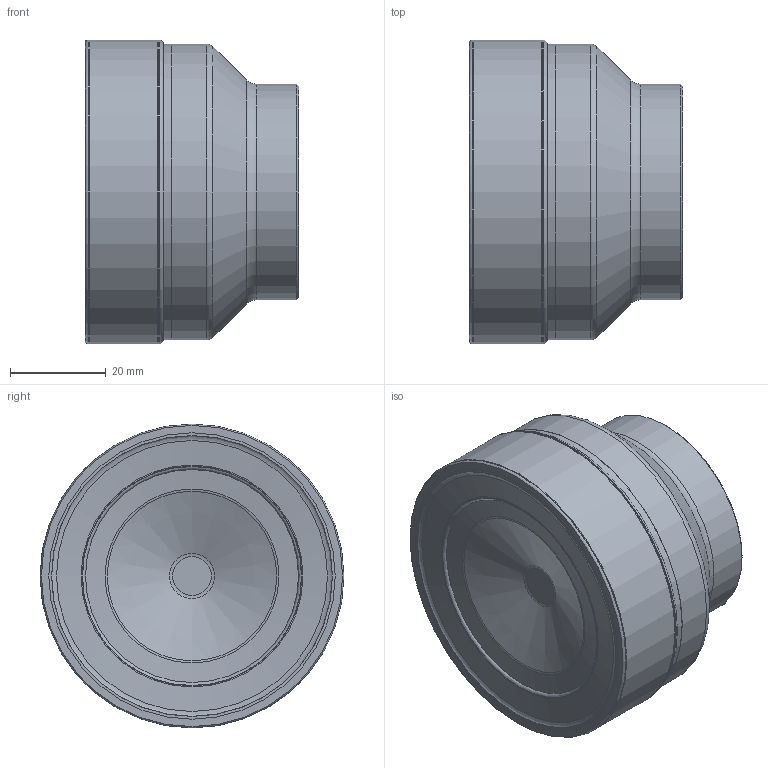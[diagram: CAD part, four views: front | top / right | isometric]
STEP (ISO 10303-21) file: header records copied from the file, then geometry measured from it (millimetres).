
FILE_DESCRIPTION(/* description */ (''),/* implementation_level */ '2;1');
FILE_NAME(/* name */ 'EMP02-2.50''''-A0.75''''-AP16-06.stp',/* time_stamp */ '2022-03-29T10:37:34+08:00',/* author */ (''),/* organization */ (''),/* preprocessor_version */ 'ST-DEVELOPER v16.7',/* originating_system */ 'SIEMENS PLM Software NX 12.0',/* authorisation */ '');
FILE_SCHEMA (('AUTOMOTIVE_DESIGN { 1 0 10303 214 3 1 1 1 }'));
Length unit declared in the file: millimetre
Products named in the file (1): heyu23945552hgbf
Bounding box: 44.45 x 63.33 x 63.33 mm (x, y, z)
Volume: 109246.1 mm3; surface area: 13370.7 mm2
Topology: 1 solids, 1 shells, 32 faces, 66 edges, 36 vertices
Faces by surface type: revolution 15, cone 8, torus 5, cylinder 2, plane 2
Full cylindrical faces by diameter (mm): 45 x1, 61.669 x1
Entity records: 756 total; most frequent: CARTESIAN_POINT 185, DIRECTION 113, EDGE_LOOP 62, ORIENTED_EDGE 62, FACE_BOUND 60, AXIS2_PLACEMENT_3D 49, ADVANCED_FACE 32, VERTEX_POINT 31
